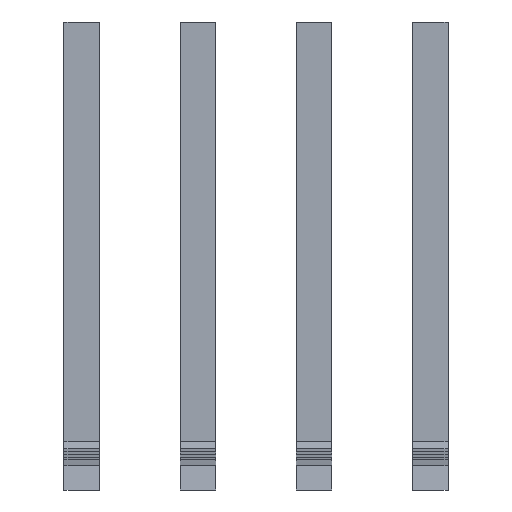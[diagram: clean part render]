
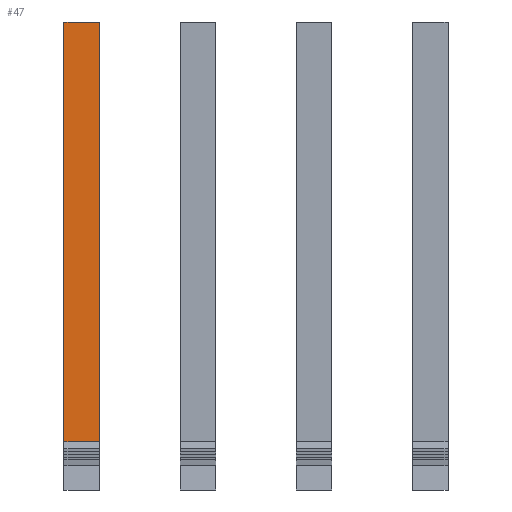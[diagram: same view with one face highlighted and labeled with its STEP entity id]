
A CAD part, front view. The second image highlights one B-rep face of the part: STEP entity #47.
In plain terms, the highlighted planar face has unit normal (0, -1, 0).
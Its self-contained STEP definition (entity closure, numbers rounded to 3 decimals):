
#47 = ADVANCED_FACE('',(#48),#62,.F.);
#48 = FACE_BOUND('',#49,.F.);
#49 = EDGE_LOOP('',(#50,#85,#113,#141));
#50 = ORIENTED_EDGE('',*,*,#51,.T.);
#51 = EDGE_CURVE('',#52,#54,#56,.T.);
#52 = VERTEX_POINT('',#53);
#53 = CARTESIAN_POINT('',(-27.4,16.5,-138.));
#54 = VERTEX_POINT('',#55);
#55 = CARTESIAN_POINT('',(-23.,16.5,-138.));
#56 = SURFACE_CURVE('',#57,(#61,#73),.PCURVE_S1.);
#57 = LINE('',#58,#59);
#58 = CARTESIAN_POINT('',(-27.4,16.5,-138.));
#59 = VECTOR('',#60,1.);
#60 = DIRECTION('',(1.,0.,0.));
#61 = PCURVE('',#62,#67);
#62 = PLANE('',#63);
#63 = AXIS2_PLACEMENT_3D('',#64,#65,#66);
#64 = CARTESIAN_POINT('',(-27.4,16.5,-138.));
#65 = DIRECTION('',(-0.,1.,0.));
#66 = DIRECTION('',(0.,0.,-1.));
#67 = DEFINITIONAL_REPRESENTATION('',(#68),#72);
#68 = LINE('',#69,#70);
#69 = CARTESIAN_POINT('',(0.,0.));
#70 = VECTOR('',#71,1.);
#71 = DIRECTION('',(0.,-1.));
#72 = ( GEOMETRIC_REPRESENTATION_CONTEXT(2) 
PARAMETRIC_REPRESENTATION_CONTEXT() REPRESENTATION_CONTEXT('2D SPACE',''
  ) );
#73 = PCURVE('',#74,#79);
#74 = PLANE('',#75);
#75 = AXIS2_PLACEMENT_3D('',#76,#77,#78);
#76 = CARTESIAN_POINT('',(-27.4,21.,-138.));
#77 = DIRECTION('',(0.,0.,-1.));
#78 = DIRECTION('',(0.,-1.,0.));
#79 = DEFINITIONAL_REPRESENTATION('',(#80),#84);
#80 = LINE('',#81,#82);
#81 = CARTESIAN_POINT('',(4.5,0.));
#82 = VECTOR('',#83,1.);
#83 = DIRECTION('',(0.,-1.));
#84 = ( GEOMETRIC_REPRESENTATION_CONTEXT(2) 
PARAMETRIC_REPRESENTATION_CONTEXT() REPRESENTATION_CONTEXT('2D SPACE',''
  ) );
#85 = ORIENTED_EDGE('',*,*,#86,.T.);
#86 = EDGE_CURVE('',#54,#87,#89,.T.);
#87 = VERTEX_POINT('',#88);
#88 = CARTESIAN_POINT('',(-23.,16.5,-190.));
#89 = SURFACE_CURVE('',#90,(#94,#101),.PCURVE_S1.);
#90 = LINE('',#91,#92);
#91 = CARTESIAN_POINT('',(-23.,16.5,-138.));
#92 = VECTOR('',#93,1.);
#93 = DIRECTION('',(0.,0.,-1.));
#94 = PCURVE('',#62,#95);
#95 = DEFINITIONAL_REPRESENTATION('',(#96),#100);
#96 = LINE('',#97,#98);
#97 = CARTESIAN_POINT('',(0.,-4.4));
#98 = VECTOR('',#99,1.);
#99 = DIRECTION('',(1.,0.));
#100 = ( GEOMETRIC_REPRESENTATION_CONTEXT(2) 
PARAMETRIC_REPRESENTATION_CONTEXT() REPRESENTATION_CONTEXT('2D SPACE',''
  ) );
#101 = PCURVE('',#102,#107);
#102 = PLANE('',#103);
#103 = AXIS2_PLACEMENT_3D('',#104,#105,#106);
#104 = CARTESIAN_POINT('',(-23.,15.918,-174.275));
#105 = DIRECTION('',(1.,0.,0.));
#106 = DIRECTION('',(-0.,0.,1.));
#107 = DEFINITIONAL_REPRESENTATION('',(#108),#112);
#108 = LINE('',#109,#110);
#109 = CARTESIAN_POINT('',(36.275,-0.582));
#110 = VECTOR('',#111,1.);
#111 = DIRECTION('',(-1.,0.));
#112 = ( GEOMETRIC_REPRESENTATION_CONTEXT(2) 
PARAMETRIC_REPRESENTATION_CONTEXT() REPRESENTATION_CONTEXT('2D SPACE',''
  ) );
#113 = ORIENTED_EDGE('',*,*,#114,.F.);
#114 = EDGE_CURVE('',#115,#87,#117,.T.);
#115 = VERTEX_POINT('',#116);
#116 = CARTESIAN_POINT('',(-27.4,16.5,-190.));
#117 = SURFACE_CURVE('',#118,(#122,#129),.PCURVE_S1.);
#118 = LINE('',#119,#120);
#119 = CARTESIAN_POINT('',(-27.4,16.5,-190.));
#120 = VECTOR('',#121,1.);
#121 = DIRECTION('',(1.,0.,0.));
#122 = PCURVE('',#62,#123);
#123 = DEFINITIONAL_REPRESENTATION('',(#124),#128);
#124 = LINE('',#125,#126);
#125 = CARTESIAN_POINT('',(52.,0.));
#126 = VECTOR('',#127,1.);
#127 = DIRECTION('',(0.,-1.));
#128 = ( GEOMETRIC_REPRESENTATION_CONTEXT(2) 
PARAMETRIC_REPRESENTATION_CONTEXT() REPRESENTATION_CONTEXT('2D SPACE',''
  ) );
#129 = PCURVE('',#130,#135);
#130 = PLANE('',#131);
#131 = AXIS2_PLACEMENT_3D('',#132,#133,#134);
#132 = CARTESIAN_POINT('',(-27.4,16.5,-190.));
#133 = DIRECTION('',(0.,0.555,-0.832));
#134 = DIRECTION('',(0.,-0.832,-0.555));
#135 = DEFINITIONAL_REPRESENTATION('',(#136),#140);
#136 = LINE('',#137,#138);
#137 = CARTESIAN_POINT('',(0.,0.));
#138 = VECTOR('',#139,1.);
#139 = DIRECTION('',(0.,-1.));
#140 = ( GEOMETRIC_REPRESENTATION_CONTEXT(2) 
PARAMETRIC_REPRESENTATION_CONTEXT() REPRESENTATION_CONTEXT('2D SPACE',''
  ) );
#141 = ORIENTED_EDGE('',*,*,#142,.F.);
#142 = EDGE_CURVE('',#52,#115,#143,.T.);
#143 = SURFACE_CURVE('',#144,(#148,#155),.PCURVE_S1.);
#144 = LINE('',#145,#146);
#145 = CARTESIAN_POINT('',(-27.4,16.5,-138.));
#146 = VECTOR('',#147,1.);
#147 = DIRECTION('',(0.,0.,-1.));
#148 = PCURVE('',#62,#149);
#149 = DEFINITIONAL_REPRESENTATION('',(#150),#154);
#150 = LINE('',#151,#152);
#151 = CARTESIAN_POINT('',(0.,0.));
#152 = VECTOR('',#153,1.);
#153 = DIRECTION('',(1.,0.));
#154 = ( GEOMETRIC_REPRESENTATION_CONTEXT(2) 
PARAMETRIC_REPRESENTATION_CONTEXT() REPRESENTATION_CONTEXT('2D SPACE',''
  ) );
#155 = PCURVE('',#156,#161);
#156 = PLANE('',#157);
#157 = AXIS2_PLACEMENT_3D('',#158,#159,#160);
#158 = CARTESIAN_POINT('',(-27.4,15.918,-174.275));
#159 = DIRECTION('',(1.,0.,0.));
#160 = DIRECTION('',(-0.,0.,1.));
#161 = DEFINITIONAL_REPRESENTATION('',(#162),#166);
#162 = LINE('',#163,#164);
#163 = CARTESIAN_POINT('',(36.275,-0.582));
#164 = VECTOR('',#165,1.);
#165 = DIRECTION('',(-1.,0.));
#166 = ( GEOMETRIC_REPRESENTATION_CONTEXT(2) 
PARAMETRIC_REPRESENTATION_CONTEXT() REPRESENTATION_CONTEXT('2D SPACE',''
  ) );
